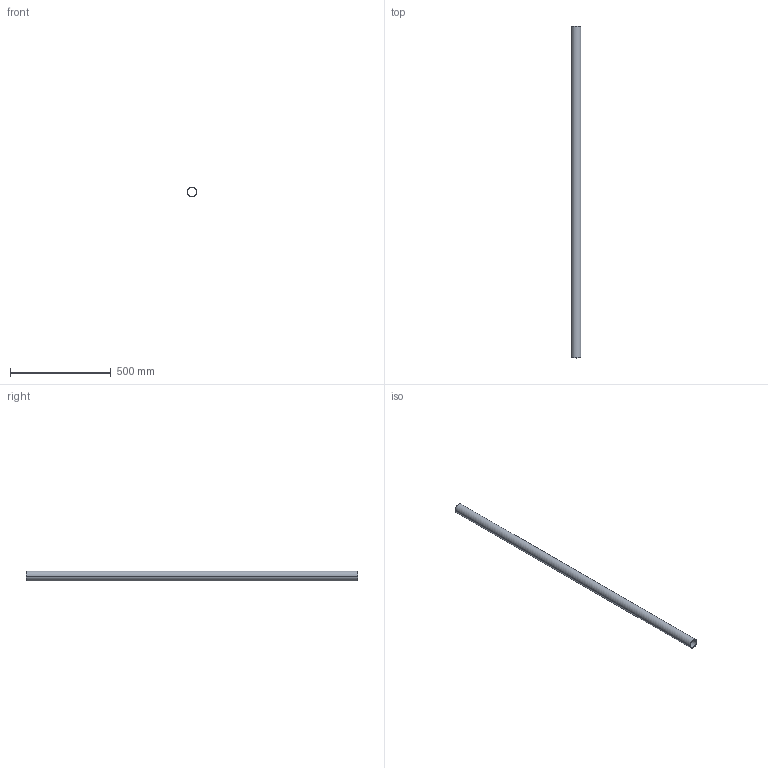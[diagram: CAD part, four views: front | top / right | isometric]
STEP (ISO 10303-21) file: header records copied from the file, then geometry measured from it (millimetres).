
FILE_DESCRIPTION (( 'STEP AP214' ), '1' );
FILE_NAME ('CCJ029-REP.207 - MAIN COURANTE PLANCHER INFERIEUR B1-C1.STEP', '2024-01-10T14:54:03', ( '' ), ( '' ), 'SwSTEP 2.0', 'SolidWorks 2021', '' );
FILE_SCHEMA (( 'AUTOMOTIVE_DESIGN' ));
Length unit declared in the file: millimetre
Products named in the file (1): CCJ029-REP.207 - MAIN COURANTE PLANCHER INFERIEUR B1-C1
Bounding box: 48.3 x 1651 x 48.3 mm (x, y, z)
Volume: 593885.1 mm3; surface area: 475827.5 mm2
Topology: 1 solids, 1 shells, 6 faces, 12 edges, 8 vertices
Faces by surface type: cylinder 4, plane 2
Entity records: 202 total; most frequent: DIRECTION 34, CARTESIAN_POINT 27, ORIENTED_EDGE 24, AXIS2_PLACEMENT_3D 15, EDGE_CURVE 12, EDGE_LOOP 8, VERTEX_POINT 8, CIRCLE 8
